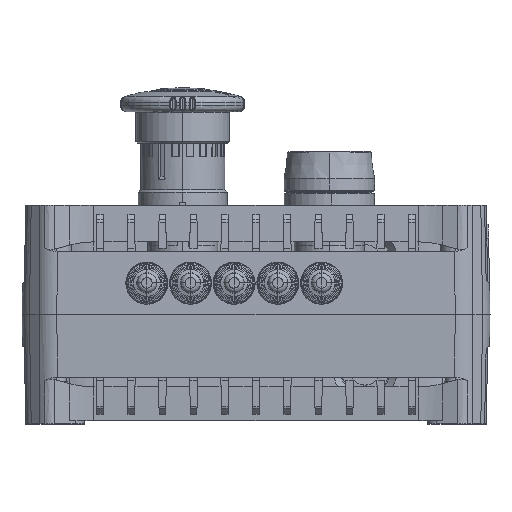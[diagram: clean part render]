
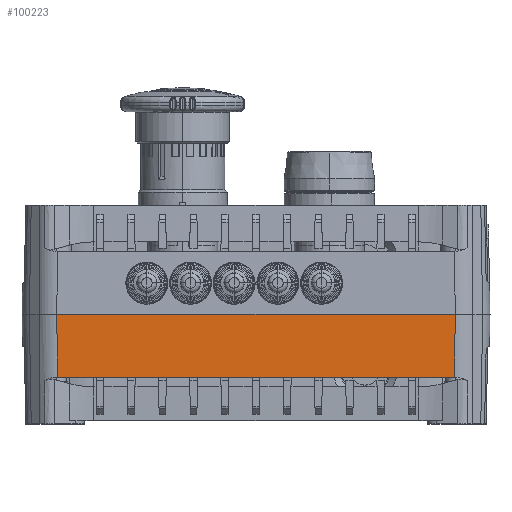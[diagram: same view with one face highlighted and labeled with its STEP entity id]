
A CAD part, top view. The second image highlights one B-rep face of the part: STEP entity #100223.
In plain terms, the highlighted planar face has unit normal (0, -0.018, 1).
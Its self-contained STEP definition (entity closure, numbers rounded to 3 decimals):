
#3478 = VECTOR ( 'NONE', #22655, 1000. ) ;
#5427 = CARTESIAN_POINT ( 'NONE',  ( 63.829, 0., 55. ) ) ;
#6422 = CARTESIAN_POINT ( 'NONE',  ( -63.829, 0., 55. ) ) ;
#6433 = DIRECTION ( 'NONE',  ( 0., -0.017, 1. ) ) ;
#10535 = LINE ( 'NONE', #156027, #36916 ) ;
#22655 = DIRECTION ( 'NONE',  ( 0.007, 1., 0.017 ) ) ;
#25701 = AXIS2_PLACEMENT_3D ( 'NONE', #45037, #6433, #150484 ) ;
#25784 = EDGE_CURVE ( 'NONE', #68736, #32735, #107089, .T. ) ;
#32086 = VERTEX_POINT ( 'NONE', #110333 ) ;
#32735 = VERTEX_POINT ( 'NONE', #5427 ) ;
#36916 = VECTOR ( 'NONE', #80089, 1000. ) ;
#37078 = VECTOR ( 'NONE', #149313, 1000. ) ;
#45037 = CARTESIAN_POINT ( 'NONE',  ( -67.142, 0., 55. ) ) ;
#49359 = EDGE_CURVE ( 'NONE', #54836, #32735, #71624, .T. ) ;
#50638 = CARTESIAN_POINT ( 'NONE',  ( 63.683, -20.178, 54.648 ) ) ;
#53945 = ORIENTED_EDGE ( 'NONE', *, *, #49359, .F. ) ;
#54467 = VECTOR ( 'NONE', #107719, 1000. ) ;
#54544 = EDGE_CURVE ( 'NONE', #32086, #68736, #125472, .T. ) ;
#54836 = VERTEX_POINT ( 'NONE', #6422 ) ;
#55759 = CARTESIAN_POINT ( 'NONE',  ( -67.142, 0., 55. ) ) ;
#68736 = VERTEX_POINT ( 'NONE', #50638 ) ;
#71624 = LINE ( 'NONE', #55759, #37078 ) ;
#80089 = DIRECTION ( 'NONE',  ( 0.007, -1., -0.017 ) ) ;
#94676 = CARTESIAN_POINT ( 'NONE',  ( 67.07, -20.178, 54.648 ) ) ;
#98406 = PLANE ( 'NONE',  #25701 ) ;
#100223 = ADVANCED_FACE ( 'NONE', ( #127115 ), #98406, .T. ) ;
#103670 = EDGE_LOOP ( 'NONE', ( #53945, #134306, #130361, #145065 ) ) ;
#107089 = LINE ( 'NONE', #165556, #3478 ) ;
#107719 = DIRECTION ( 'NONE',  ( 1., 0., 0. ) ) ;
#110333 = CARTESIAN_POINT ( 'NONE',  ( -63.683, -20.178, 54.648 ) ) ;
#125472 = LINE ( 'NONE', #94676, #54467 ) ;
#127115 = FACE_OUTER_BOUND ( 'NONE', #103670, .T. ) ;
#130361 = ORIENTED_EDGE ( 'NONE', *, *, #54544, .T. ) ;
#134306 = ORIENTED_EDGE ( 'NONE', *, *, #152563, .T. ) ;
#145065 = ORIENTED_EDGE ( 'NONE', *, *, #25784, .T. ) ;
#149313 = DIRECTION ( 'NONE',  ( 1., 0., 0. ) ) ;
#150484 = DIRECTION ( 'NONE',  ( 0., -1., -0.017 ) ) ;
#152563 = EDGE_CURVE ( 'NONE', #54836, #32086, #10535, .T. ) ;
#156027 = CARTESIAN_POINT ( 'NONE',  ( -63.829, 0.024, 55. ) ) ;
#165556 = CARTESIAN_POINT ( 'NONE',  ( 63.822, -0.947, 54.983 ) ) ;
